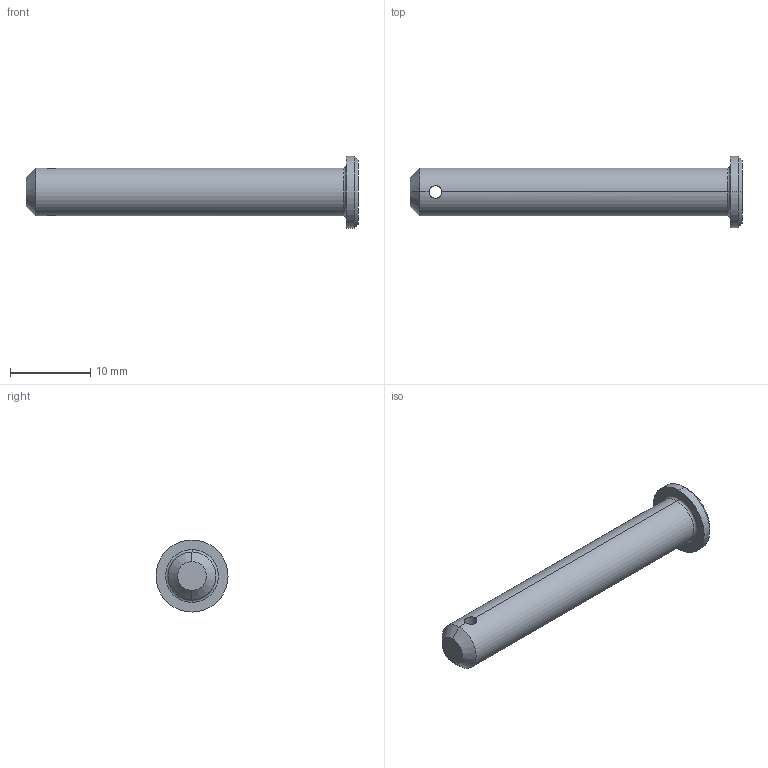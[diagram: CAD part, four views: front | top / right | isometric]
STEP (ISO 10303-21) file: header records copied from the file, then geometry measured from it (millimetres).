
FILE_DESCRIPTION (( 'STEP AP203' ), '1' );
FILE_NAME ('Wiberger-sms2360_6x40.step', '2012-10-09T08:58:33', ( 'Magnus' ), ( 'Wiberger' ), 'SwSTEP 2.0', 'SolidWorks 2011', '' );
FILE_SCHEMA (( 'CONFIG_CONTROL_DESIGN' ));
Length unit declared in the file: millimetre
Products named in the file (1): Wiberger-sms2360_6x40
Bounding box: 41.5 x 9 x 9 mm (x, y, z)
Volume: 1199.7 mm3; surface area: 923.1 mm2
Topology: 1 solids, 1 shells, 15 faces, 32 edges, 18 vertices
Faces by surface type: cylinder 6, cone 4, plane 3, torus 2
Entity records: 539 total; most frequent: CARTESIAN_POINT 130, DIRECTION 76, ORIENTED_EDGE 64, EDGE_CURVE 32, AXIS2_PLACEMENT_3D 32, VERTEX_POINT 18, EDGE_LOOP 16, CIRCLE 16
